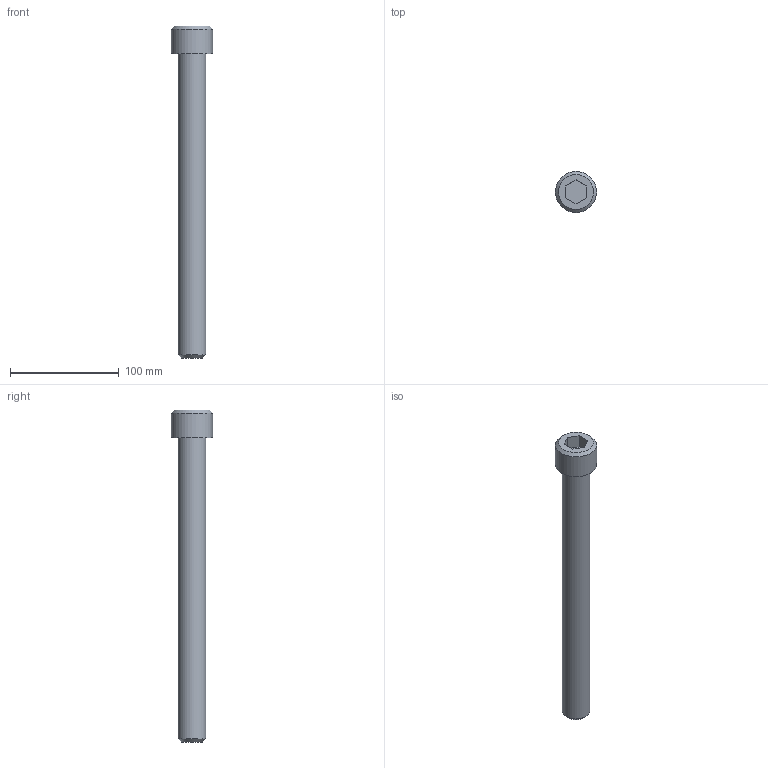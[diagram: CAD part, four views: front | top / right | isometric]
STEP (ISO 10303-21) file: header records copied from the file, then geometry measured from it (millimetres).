
FILE_DESCRIPTION((''),'2;1');
FILE_NAME('C:\Users\Stan\Desktop\import\SHCS 1-8 UNCx11.ipt.step','2011-08-18T17:44:10',(''),(''),'Autodesk Inventor 2012','Autodesk Inventor 2012','');
FILE_SCHEMA(('AUTOMOTIVE_DESIGN { 1 0 10303 214 1 1 1 1 }'));
Length unit declared in the file: inch
Products named in the file (1): SHCS 1-8 UNCx11
Bounding box: 37.8 x 37.8 x 304.65 mm (x, y, z)
Volume: 165167 mm3; surface area: 28007.9 mm2
Topology: 1 solids, 1 shells, 14 faces, 28 edges, 18 vertices
Faces by surface type: plane 10, cone 2, cylinder 2
Full cylindrical faces by diameter (mm): 25.4 x1, 37.795 x1
Entity records: 391 total; most frequent: DIRECTION 60, CARTESIAN_POINT 57, ORIENTED_EDGE 48, EDGE_CURVE 24, AXIS2_PLACEMENT_3D 21, EDGE_LOOP 20, VERTEX_POINT 18, VECTOR 18
